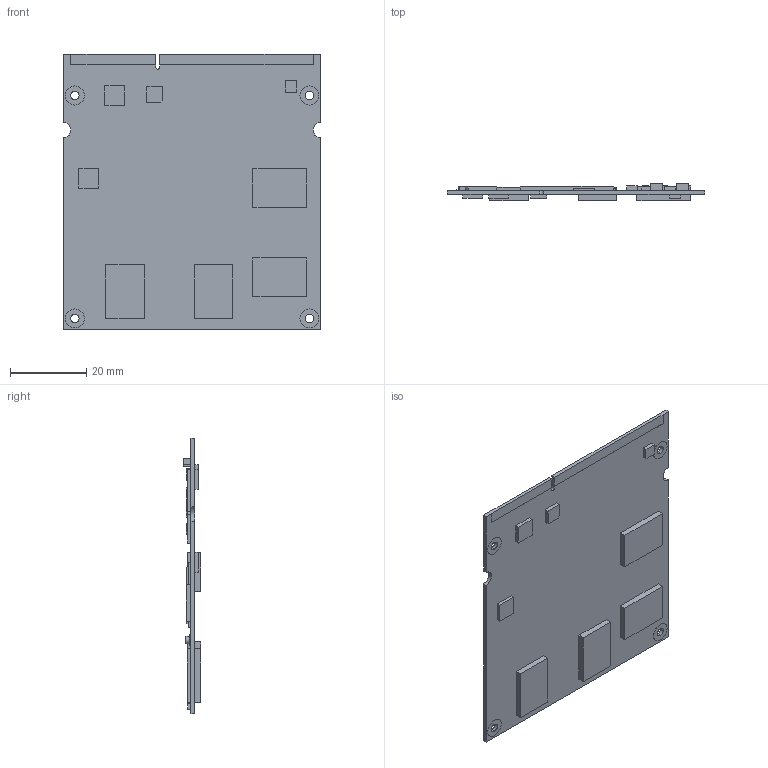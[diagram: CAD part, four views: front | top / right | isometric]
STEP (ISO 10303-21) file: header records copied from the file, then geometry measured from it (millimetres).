
FILE_DESCRIPTION (( 'STEP AP214' ), '1' );
FILE_NAME ('Stock Configuration, CM-T54.STEP', '2014-06-15T06:48:51', ( '' ), ( '' ), 'SwSTEP 2.0', 'SolidWorks 2011', '' );
FILE_SCHEMA (( 'AUTOMOTIVE_DESIGN' ));
Length unit declared in the file: millimetre
Products named in the file (2): PCB-CM-T54; Stock Configuration, CM-T54
Assembly tree (1 placements, depth 2):
  Stock Configuration, CM-T54
    PCB-CM-T54
Bounding box: 67.6 x 4.6 x 72.4 mm (x, y, z)
Volume: 7362.2 mm3; surface area: 11076.8 mm2
Topology: 1 solids, 1 shells, 236 faces, 570 edges, 380 vertices
Faces by surface type: plane 203, cylinder 33
Entity records: 9236 total; most frequent: CARTESIAN_POINT 1190, ORIENTED_EDGE 1140, DIRECTION 1116, EDGE_CURVE 570, LINE 504, VECTOR 504, VERTEX_POINT 380, AXIS2_PLACEMENT_3D 306
